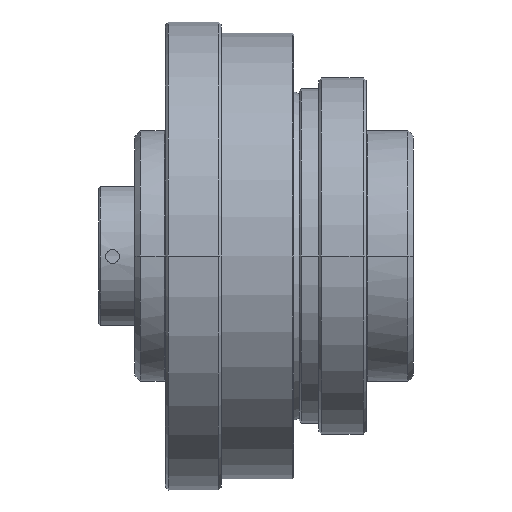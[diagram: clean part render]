
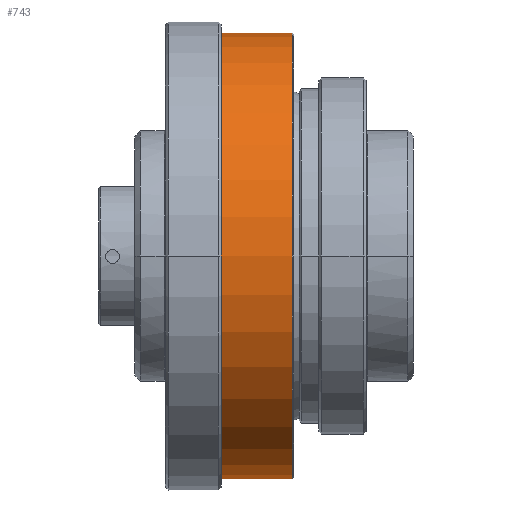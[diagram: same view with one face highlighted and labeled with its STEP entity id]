
A CAD part, front view. The second image highlights one B-rep face of the part: STEP entity #743.
In plain terms, the highlighted cylindrical face has radius 40 mm (diameter 80 mm), a partial arc.
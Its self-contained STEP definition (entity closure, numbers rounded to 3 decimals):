
#743=ADVANCED_FACE('NONE',(#1695),#1696,.T.);
#1695=FACE_OUTER_BOUND('',#3212,.T.);
#1696=CYLINDRICAL_SURFACE('',#3213,40.0);
#3212=EDGE_LOOP('',(#5321,#5322,#5323,#5324,#5325));
#3213=AXIS2_PLACEMENT_3D('',#5326,#5327,#5328);
#5321=ORIENTED_EDGE('',*,*,#7117,.F.);
#5322=ORIENTED_EDGE('',*,*,#7623,.T.);
#5323=ORIENTED_EDGE('',*,*,#7121,.T.);
#5324=ORIENTED_EDGE('',*,*,#7118,.T.);
#5325=ORIENTED_EDGE('',*,*,#7607,.F.);
#5326=CARTESIAN_POINT('',(15.0,0.0,0.0));
#5327=DIRECTION('',(-1.0,0.0,0.0));
#5328=DIRECTION('',(0.0,0.0,-1.0));
#7117=EDGE_CURVE('NONE',#8416,#8397,#8418,.T.);
#7118=EDGE_CURVE('NONE',#8419,#8395,#8420,.T.);
#7121=EDGE_CURVE('NONE',#8423,#8419,#8424,.T.);
#7607=EDGE_CURVE('NONE',#8397,#8395,#9179,.T.);
#7623=EDGE_CURVE('NONE',#8416,#8423,#9195,.T.);
#8395=VERTEX_POINT('NONE',#10405);
#8397=VERTEX_POINT('NONE',#10408);
#8416=VERTEX_POINT('NONE',#10432);
#8418=LINE('',#10434,#10435);
#8419=VERTEX_POINT('NONE',#10436);
#8420=LINE('',#10437,#10438);
#8423=VERTEX_POINT('NONE',#10441);
#8424=CIRCLE('',#10442,40.0);
#9179=CIRCLE('',#11613,40.);
#9195=CIRCLE('',#11669,40.0);
#10405=CARTESIAN_POINT('',(22.8,0.0,-40.));
#10408=CARTESIAN_POINT('',(22.8,0.,40.));
#10432=CARTESIAN_POINT('',(9.5,0.,40.0));
#10434=CARTESIAN_POINT('',(15.0,0.,40.0));
#10435=VECTOR('',#12878,1000.0);
#10436=CARTESIAN_POINT('',(9.5,0.0,-40.0));
#10437=CARTESIAN_POINT('',(15.0,0.0,-40.0));
#10438=VECTOR('',#12879,1000.0);
#10441=CARTESIAN_POINT('',(9.5,-40.0,0.));
#10442=AXIS2_PLACEMENT_3D('',#12883,#12884,#12885);
#11613=AXIS2_PLACEMENT_3D('',#13599,#13600,#13601);
#11669=AXIS2_PLACEMENT_3D('',#13611,#13612,#13613);
#12878=DIRECTION('',(1.0,0.0,0.0));
#12879=DIRECTION('',(1.0,0.0,0.0));
#12883=CARTESIAN_POINT('',(9.5,0.0,0.0));
#12884=DIRECTION('',(1.0,0.0,0.0));
#12885=DIRECTION('',(0.0,0.0,-1.0));
#13599=CARTESIAN_POINT('',(22.8,0.0,0.0));
#13600=DIRECTION('',(1.0,0.0,0.0));
#13601=DIRECTION('',(0.0,-1.0,0.0));
#13611=CARTESIAN_POINT('',(9.5,0.0,0.0));
#13612=DIRECTION('',(1.0,0.0,0.0));
#13613=DIRECTION('',(0.0,0.0,-1.0));
